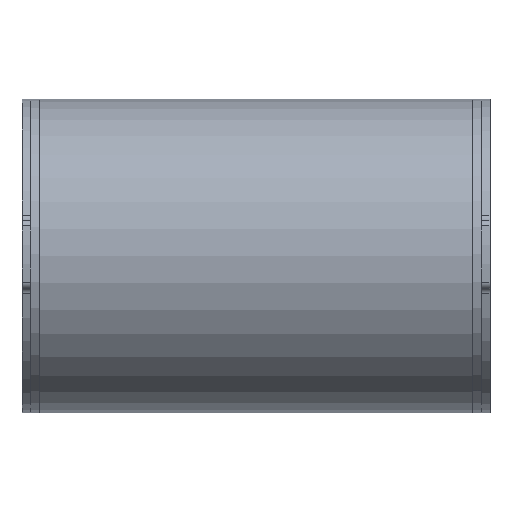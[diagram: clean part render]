
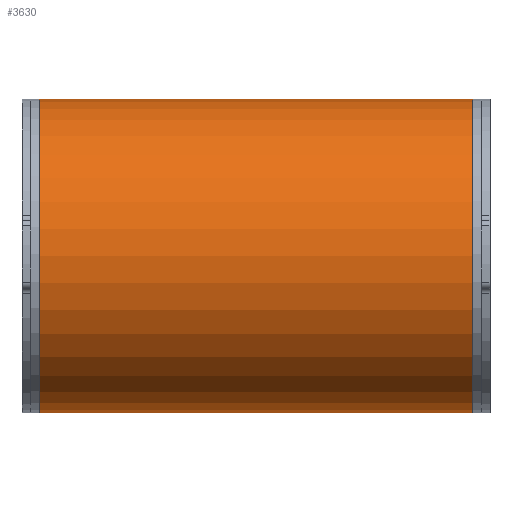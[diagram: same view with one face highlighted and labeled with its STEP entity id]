
A CAD part, left-side view. The second image highlights one B-rep face of the part: STEP entity #3630.
In plain terms, the highlighted cylindrical face has radius 107.95 mm (diameter 215.9 mm), a partial arc.
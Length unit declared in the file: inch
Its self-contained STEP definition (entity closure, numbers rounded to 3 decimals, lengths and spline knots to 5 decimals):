
#232 = ORIENTED_EDGE ( 'NONE', *, *, #8440, .F. ) ;
#1228 = VECTOR ( 'NONE', #8592, 39.37008 ) ;
#1569 = DIRECTION ( 'NONE',  ( 0., 0., 1. ) ) ;
#1838 = EDGE_LOOP ( 'NONE', ( #9692, #232, #3868, #5748 ) ) ;
#2028 = EDGE_CURVE ( 'NONE', #3831, #2763, #10208, .T. ) ;
#2433 = CARTESIAN_POINT ( 'NONE',  ( 0., 11.75, 0. ) ) ;
#2449 = DIRECTION ( 'NONE',  ( 0., 1., 0. ) ) ;
#2763 = VERTEX_POINT ( 'NONE', #6683 ) ;
#3030 = CYLINDRICAL_SURFACE ( 'NONE', #7239, 4.25 ) ;
#3228 = DIRECTION ( 'NONE',  ( 0., -1., 0. ) ) ;
#3630 = ADVANCED_FACE ( 'NONE', ( #5772 ), #3030, .T. ) ;
#3722 = CARTESIAN_POINT ( 'NONE',  ( 0., 11.75, 4.25 ) ) ;
#3803 = AXIS2_PLACEMENT_3D ( 'NONE', #6835, #9922, #9159 ) ;
#3831 = VERTEX_POINT ( 'NONE', #8295 ) ;
#3868 = ORIENTED_EDGE ( 'NONE', *, *, #2028, .T. ) ;
#4771 = VERTEX_POINT ( 'NONE', #3722 ) ;
#4849 = AXIS2_PLACEMENT_3D ( 'NONE', #7115, #2449, #1569 ) ;
#5432 = VECTOR ( 'NONE', #7992, 39.37008 ) ;
#5748 = ORIENTED_EDGE ( 'NONE', *, *, #9267, .T. ) ;
#5772 = FACE_OUTER_BOUND ( 'NONE', #1838, .T. ) ;
#6183 = EDGE_CURVE ( 'NONE', #4771, #6992, #8290, .T. ) ;
#6578 = CIRCLE ( 'NONE', #4849, 4.25 ) ;
#6683 = CARTESIAN_POINT ( 'NONE',  ( 0., 0., -4.25 ) ) ;
#6835 = CARTESIAN_POINT ( 'NONE',  ( 0., 0., 0. ) ) ;
#6992 = VERTEX_POINT ( 'NONE', #7243 ) ;
#7115 = CARTESIAN_POINT ( 'NONE',  ( 0., 11.75, 0. ) ) ;
#7239 = AXIS2_PLACEMENT_3D ( 'NONE', #2433, #3228, #7961 ) ;
#7243 = CARTESIAN_POINT ( 'NONE',  ( 0., 0., 4.25 ) ) ;
#7961 = DIRECTION ( 'NONE',  ( 0., 0., -1. ) ) ;
#7992 = DIRECTION ( 'NONE',  ( 0., -1., 0. ) ) ;
#8290 = LINE ( 'NONE', #9649, #5432 ) ;
#8295 = CARTESIAN_POINT ( 'NONE',  ( 0., 11.75, -4.25 ) ) ;
#8440 = EDGE_CURVE ( 'NONE', #3831, #4771, #6578, .T. ) ;
#8592 = DIRECTION ( 'NONE',  ( 0., -1., 0. ) ) ;
#9047 = CIRCLE ( 'NONE', #3803, 4.25 ) ;
#9159 = DIRECTION ( 'NONE',  ( 0., 0., 1. ) ) ;
#9267 = EDGE_CURVE ( 'NONE', #2763, #6992, #9047, .T. ) ;
#9326 = CARTESIAN_POINT ( 'NONE',  ( 0., 11.75, -4.25 ) ) ;
#9649 = CARTESIAN_POINT ( 'NONE',  ( 0., 11.75, 4.25 ) ) ;
#9692 = ORIENTED_EDGE ( 'NONE', *, *, #6183, .F. ) ;
#9922 = DIRECTION ( 'NONE',  ( 0., 1., 0. ) ) ;
#10208 = LINE ( 'NONE', #9326, #1228 ) ;
